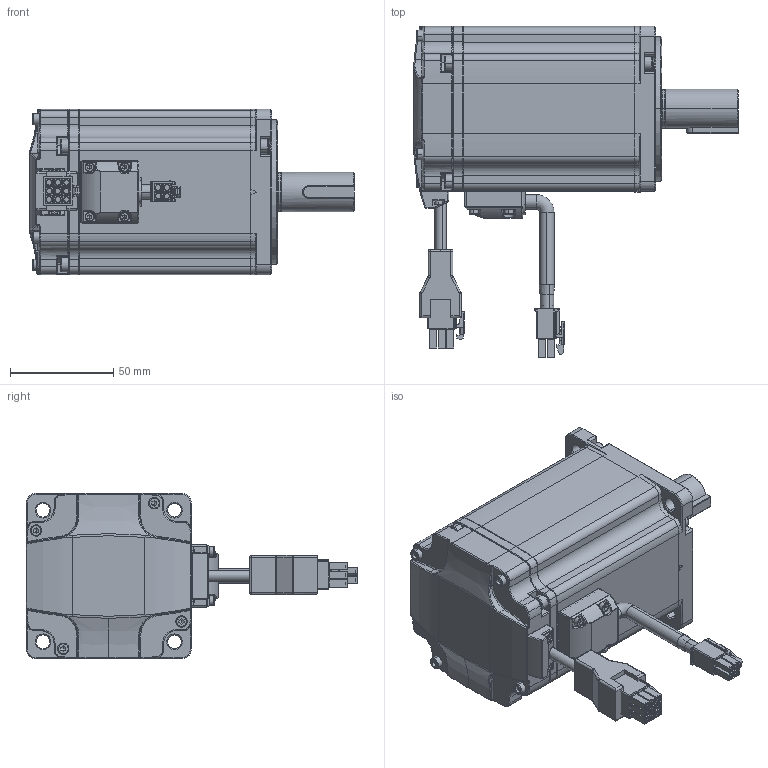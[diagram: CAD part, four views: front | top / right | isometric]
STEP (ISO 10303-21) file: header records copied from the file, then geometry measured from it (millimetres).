
FILE_DESCRIPTION (( 'STEP AP203' ), '1' );
FILE_NAME ('EM3J-10ALA221.STEP', '2023-11-16T02:08:40', ( '' ), ( '' ), 'SwSTEP 2.0', 'SolidWorks 2018', '' );
FILE_SCHEMA (( 'CONFIG_CONTROL_DESIGN' ));
Length unit declared in the file: millimetre
Products named in the file (1): EM3J-10ALA221
Bounding box: 157 x 160.49 x 80 mm (x, y, z)
Volume: 270302 mm3; surface area: 112546.9 mm2
Topology: 26 solids, 26 shells, 2348 faces, 5808 edges, 3545 vertices
Faces by surface type: plane 1115, cylinder 668, cone 266, torus 151, bspline 97, sphere 51
Entity records: 70989 total; most frequent: CARTESIAN_POINT 15751, DIRECTION 11576, ORIENTED_EDGE 11466, EDGE_CURVE 5733, AXIS2_PLACEMENT_3D 4110, VERTEX_POINT 3545, VECTOR 3356, LINE 3356
